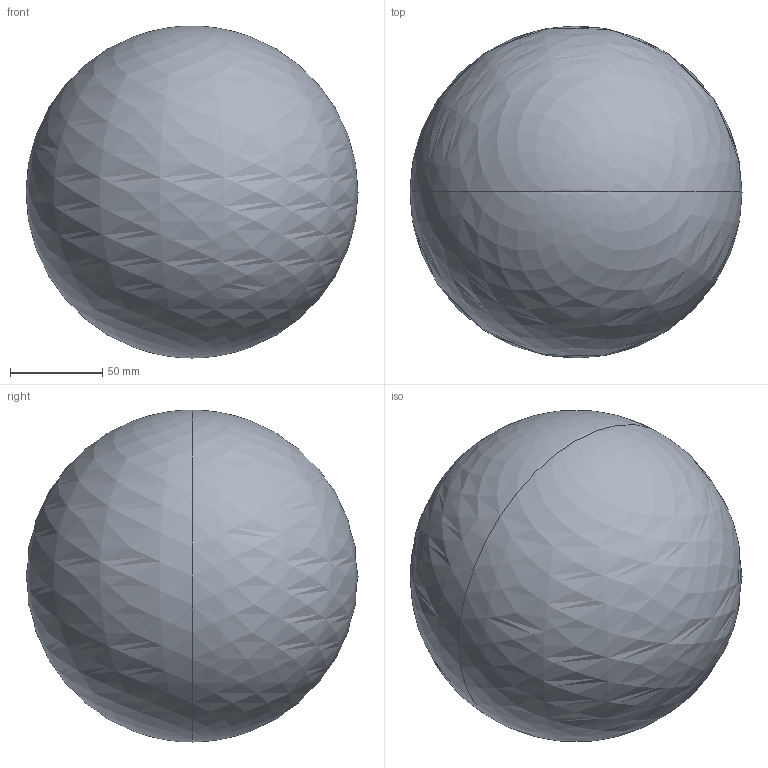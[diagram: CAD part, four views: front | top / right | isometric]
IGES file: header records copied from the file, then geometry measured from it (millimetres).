
Start section: 3D InterOp IGES (Version 21 0 0), Spatial Corp. Copyright (c) 1999-2007.
Global section: file name: vman2.iges; native system: Spatial Corp.; preprocessor: 3D InterOp ACIS/IGES; author: Noname; organization: ANSOFT Corporation; date: 20140705.112825; units: millimetre
Bounding box: 180 x 180 x 180 mm (x, y, z)
Surface area: 137179.9 mm2 (no closed solid volume)
Topology: 0 solids, 0 shells, 31 faces, 132 edges, 128 vertices
Faces by surface type: revolution 20, extrusion 11
